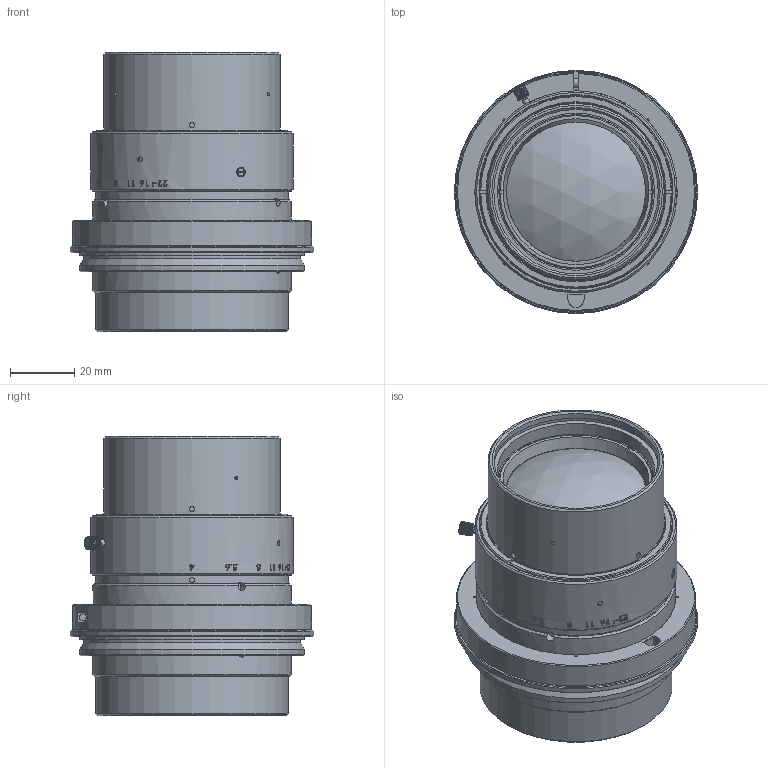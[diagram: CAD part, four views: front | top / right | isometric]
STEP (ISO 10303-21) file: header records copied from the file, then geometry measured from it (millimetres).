
FILE_DESCRIPTION (( 'STEP AP203' ), '1' );
FILE_NAME ('3d_ML-LS9040-67V70-02_a003.STEP', '2020-09-08T06:07:54', ( '' ), ( '' ), 'SwSTEP 2.0', 'SolidWorks 2017', '' );
FILE_SCHEMA (( 'CONFIG_CONTROL_DESIGN' ));
Length unit declared in the file: inch
Products named in the file (1): 3d_ML-LS9040-67V70-02_a003
Bounding box: 75.8 x 75.8 x 87.04 mm (x, y, z)
Volume: 239394.8 mm3; surface area: 32615.5 mm2
Topology: 2 solids, 2 shells, 668 faces, 1805 edges, 1194 vertices
Faces by surface type: plane 239, cylinder 204, bspline 172, cone 49, torus 2, sphere 2
Full cylindrical faces by diameter (mm): 1 x3, 1.5 x2, 1.548 x1, 1.6 x6, 2 x1, 2.16 x1, 2.5 x6, 2.6 x1, 3 x2, 4.4 x1, 43.5 x1, 49 x1, 49.5 x1, 49.585 x1, 51.25 x1, 52 x2, 55 x1, 55.5 x1, 60 x3, 60.5 x2, 62 x2, 62.2 x1, 63 x1, 63.5 x1, 67.6 x1, 70 x2, 75.8 x1
Entity records: 36905 total; most frequent: CARTESIAN_POINT 22444, ORIENTED_EDGE 3380, DIRECTION 2176, EDGE_CURVE 1690, VERTEX_POINT 1155, B_SPLINE_CURVE_WITH_KNOTS 866, AXIS2_PLACEMENT_3D 857, EDGE_LOOP 817
